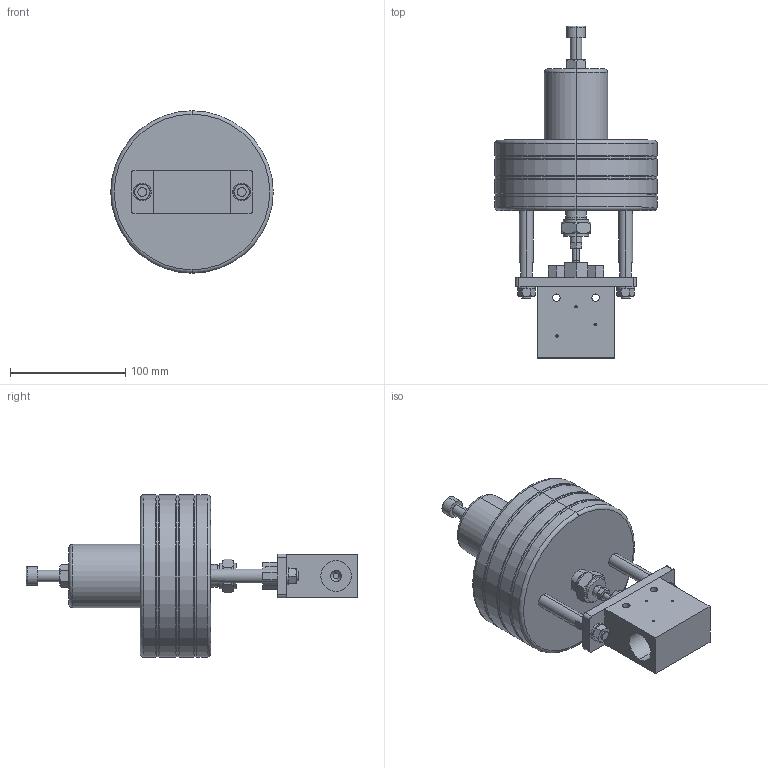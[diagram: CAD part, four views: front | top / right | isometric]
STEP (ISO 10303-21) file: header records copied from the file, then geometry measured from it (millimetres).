
FILE_DESCRIPTION (( 'STEP AP203' ), '1' );
FILE_NAME ('AOV60CS09-S.STEP', '2025-05-14T04:29:30', ( '' ), ( '' ), 'SwSTEP 2.0', 'SolidWorks 2023', '' );
FILE_SCHEMA (( 'CONFIG_CONTROL_DESIGN' ));
Length unit declared in the file: millimetre
Products named in the file (1): AOV60CS09-S
Bounding box: 141 x 288.21 x 141 mm (x, y, z)
Volume: 1230590 mm3; surface area: 114785.5 mm2
Topology: 1 solids, 1 shells, 291 faces, 707 edges, 449 vertices
Faces by surface type: plane 135, cylinder 95, cone 53, torus 8
Entity records: 8937 total; most frequent: CARTESIAN_POINT 1906, DIRECTION 1474, ORIENTED_EDGE 1414, EDGE_CURVE 707, AXIS2_PLACEMENT_3D 545, VERTEX_POINT 449, LINE 384, VECTOR 384
